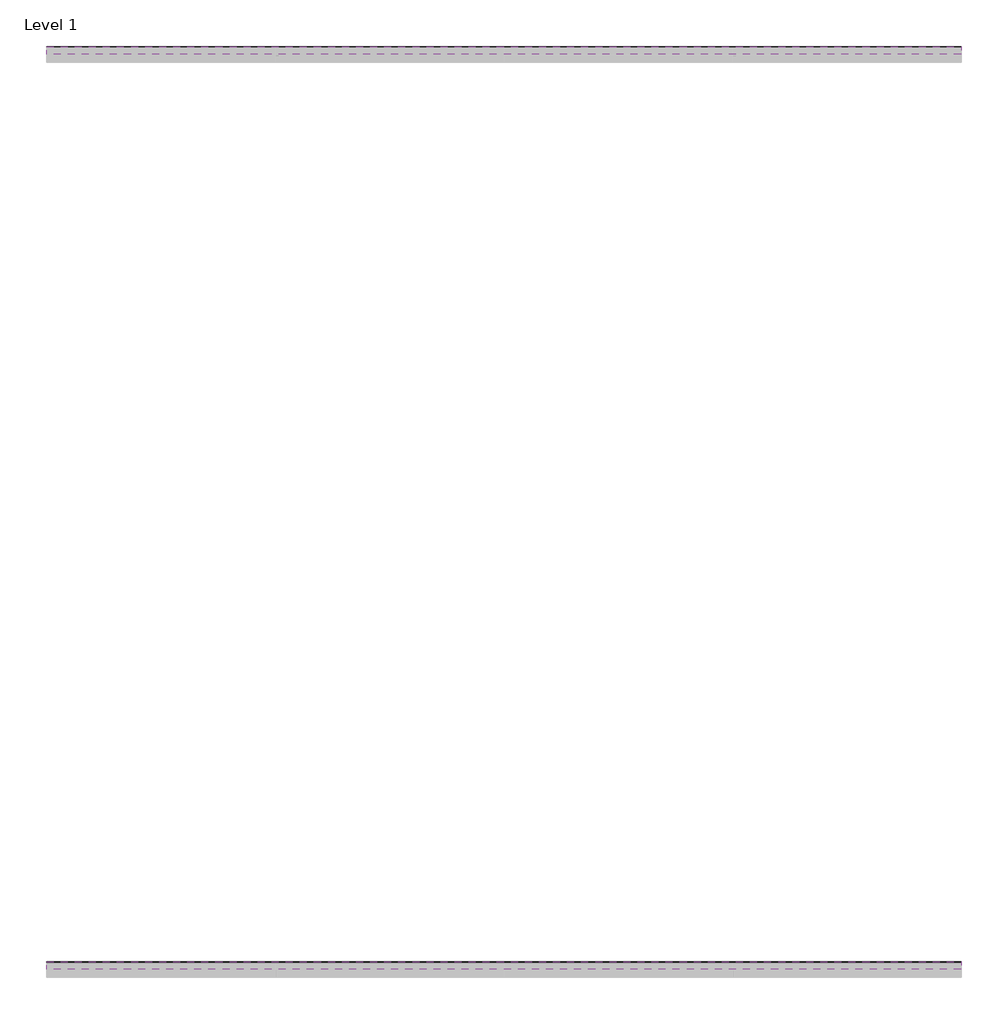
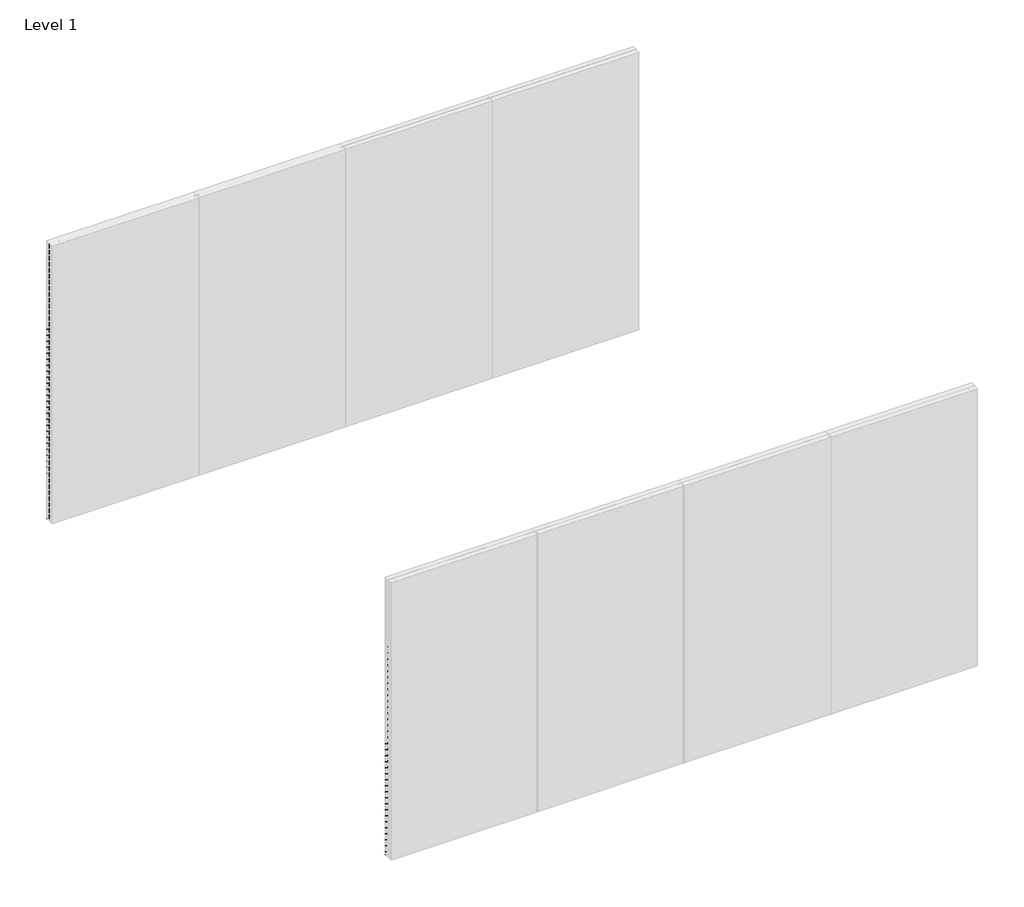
# One storey, part 2 of 2: 81 proxies.
"""IFC4 building model written with IfcOpenShell, lengths in millimetres."""

from ifc_helpers import new_model, si_unit, frame, origin, place, context, project, spatial, polyline, outline, extrude, element, save

model = new_model("IFC4")

# Units and contexts
model_context = context("Model", 3, world=origin())
ifc_project = project(units=[si_unit("LENGTHUNIT", "METRE", prefix="MILLI")], contexts=[model_context])

# Site, building, storey
site = spatial("IfcSite", under=ifc_project)
building = spatial("IfcBuilding", under=site)
storey = spatial("IfcBuildingStorey", under=building, Name="Level 1", Elevation=0.0)

# Proxies
placement = place(None, origin())
element("IfcBuildingElementProxy", 1, Name="Wall Sweeps", at=placement, inside=storey, context=model_context, shape_type="SweptSolid", body=[
    extrude(outline(polyline([(-1995.0, 2990.0), (-1995.0, 2981.2901632), (-1946.0, 2953.0), (-1946.0, 2918.0), (-1997.0, 2947.4448637), (-1997.0, 2990.0), (-1995.0, 2990.0)])), frame((0.0, 0.0, 0.0), z_axis=(1.0, 0.0, 0.0), x_axis=(0.0, 1.0, 0.0)), (0.0, 0.0, 1.0), 6000.0),
])
element("IfcBuildingElementProxy", 2, Name="Wall Sweeps", at=placement, inside=storey, context=model_context, shape_type="SweptSolid", body=[
    extrude(outline(polyline([(-1995.0, 2925.0), (-1995.0, 2916.2901632), (-1946.0, 2888.0), (-1946.0, 2853.0), (-1997.0, 2882.4448637), (-1997.0, 2925.0), (-1995.0, 2925.0)])), frame((0.0, 0.0, 0.0), z_axis=(1.0, 0.0, 0.0), x_axis=(0.0, 1.0, 0.0)), (0.0, 0.0, 1.0), 6000.0),
])
element("IfcBuildingElementProxy", 3, Name="Wall Sweeps", at=placement, inside=storey, context=model_context, shape_type="SweptSolid", body=[
    extrude(outline(polyline([(-1995.0, 2860.0), (-1995.0, 2851.2901632), (-1946.0, 2823.0), (-1946.0, 2788.0), (-1997.0, 2817.4448637), (-1997.0, 2860.0), (-1995.0, 2860.0)])), frame((0.0, 0.0, 0.0), z_axis=(1.0, 0.0, 0.0), x_axis=(0.0, 1.0, 0.0)), (0.0, 0.0, 1.0), 6000.0),
])
element("IfcBuildingElementProxy", 4, Name="Wall Sweeps", at=placement, inside=storey, context=model_context, shape_type="SweptSolid", body=[
    extrude(outline(polyline([(-1995.0, 2795.0), (-1995.0, 2786.2901632), (-1946.0, 2758.0), (-1946.0, 2723.0), (-1997.0, 2752.4448637), (-1997.0, 2795.0), (-1995.0, 2795.0)])), frame((0.0, 0.0, 0.0), z_axis=(1.0, 0.0, 0.0), x_axis=(0.0, 1.0, 0.0)), (0.0, 0.0, 1.0), 6000.0),
])
element("IfcBuildingElementProxy", 5, Name="Wall Sweeps", at=placement, inside=storey, context=model_context, shape_type="SweptSolid", body=[
    extrude(outline(polyline([(-1995.0, 2730.0), (-1995.0, 2721.2901632), (-1946.0, 2693.0), (-1946.0, 2658.0), (-1997.0, 2687.4448637), (-1997.0, 2730.0), (-1995.0, 2730.0)])), frame((0.0, 0.0, 0.0), z_axis=(1.0, 0.0, 0.0), x_axis=(0.0, 1.0, 0.0)), (0.0, 0.0, 1.0), 6000.0),
])
element("IfcBuildingElementProxy", 6, Name="Wall Sweeps", at=placement, inside=storey, context=model_context, shape_type="SweptSolid", body=[
    extrude(outline(polyline([(-1995.0, 2665.0), (-1995.0, 2656.2901632), (-1946.0, 2628.0), (-1946.0, 2593.0), (-1997.0, 2622.4448637), (-1997.0, 2665.0), (-1995.0, 2665.0)])), frame((0.0, 0.0, 0.0), z_axis=(1.0, 0.0, 0.0), x_axis=(0.0, 1.0, 0.0)), (0.0, 0.0, 1.0), 6000.0),
])
element("IfcBuildingElementProxy", 7, Name="Wall Sweeps", at=placement, inside=storey, context=model_context, shape_type="SweptSolid", body=[
    extrude(outline(polyline([(-1995.0, 2600.0), (-1995.0, 2591.2901632), (-1946.0, 2563.0), (-1946.0, 2528.0), (-1997.0, 2557.4448637), (-1997.0, 2600.0), (-1995.0, 2600.0)])), frame((0.0, 0.0, 0.0), z_axis=(1.0, 0.0, 0.0), x_axis=(0.0, 1.0, 0.0)), (0.0, 0.0, 1.0), 6000.0),
])
element("IfcBuildingElementProxy", 8, Name="Wall Sweeps", at=placement, inside=storey, context=model_context, shape_type="SweptSolid", body=[
    extrude(outline(polyline([(-1995.0, 2535.0), (-1995.0, 2526.2901632), (-1946.0, 2498.0), (-1946.0, 2463.0), (-1997.0, 2492.4448637), (-1997.0, 2535.0), (-1995.0, 2535.0)])), frame((0.0, 0.0, 0.0), z_axis=(1.0, 0.0, 0.0), x_axis=(0.0, 1.0, 0.0)), (0.0, 0.0, 1.0), 6000.0),
])
element("IfcBuildingElementProxy", 9, Name="Wall Sweeps", at=placement, inside=storey, context=model_context, shape_type="SweptSolid", body=[
    extrude(outline(polyline([(-1995.0, 2470.0), (-1995.0, 2461.2901632), (-1946.0, 2433.0), (-1946.0, 2398.0), (-1997.0, 2427.4448637), (-1997.0, 2470.0), (-1995.0, 2470.0)])), frame((0.0, 0.0, 0.0), z_axis=(1.0, 0.0, 0.0), x_axis=(0.0, 1.0, 0.0)), (0.0, 0.0, 1.0), 6000.0),
])
element("IfcBuildingElementProxy", 10, Name="Wall Sweeps", at=placement, inside=storey, context=model_context, shape_type="SweptSolid", body=[
    extrude(outline(polyline([(-1995.0, 2405.0), (-1995.0, 2396.2901632), (-1946.0, 2368.0), (-1946.0, 2333.0), (-1997.0, 2362.4448637), (-1997.0, 2405.0), (-1995.0, 2405.0)])), frame((0.0, 0.0, 0.0), z_axis=(1.0, 0.0, 0.0), x_axis=(0.0, 1.0, 0.0)), (0.0, 0.0, 1.0), 6000.0),
])
element("IfcBuildingElementProxy", 11, Name="Wall Sweeps", at=placement, inside=storey, context=model_context, shape_type="SweptSolid", body=[
    extrude(outline(polyline([(-1995.0, 2340.0), (-1995.0, 2331.2901632), (-1946.0, 2303.0), (-1946.0, 2268.0), (-1997.0, 2297.4448637), (-1997.0, 2340.0), (-1995.0, 2340.0)])), frame((0.0, 0.0, 0.0), z_axis=(1.0, 0.0, 0.0), x_axis=(0.0, 1.0, 0.0)), (0.0, 0.0, 1.0), 6000.0),
])
element("IfcBuildingElementProxy", 12, Name="Wall Sweeps", at=placement, inside=storey, context=model_context, shape_type="SweptSolid", body=[
    extrude(outline(polyline([(-1995.0, 2275.0), (-1995.0, 2266.2901632), (-1946.0, 2238.0), (-1946.0, 2203.0), (-1997.0, 2232.4448637), (-1997.0, 2275.0), (-1995.0, 2275.0)])), frame((0.0, 0.0, 0.0), z_axis=(1.0, 0.0, 0.0), x_axis=(0.0, 1.0, 0.0)), (0.0, 0.0, 1.0), 6000.0),
])
element("IfcBuildingElementProxy", 13, Name="Wall Sweeps", at=placement, inside=storey, context=model_context, shape_type="SweptSolid", body=[
    extrude(outline(polyline([(-1995.0, 2210.0), (-1995.0, 2201.2901632), (-1946.0, 2173.0), (-1946.0, 2138.0), (-1997.0, 2167.4448637), (-1997.0, 2210.0), (-1995.0, 2210.0)])), frame((0.0, 0.0, 0.0), z_axis=(1.0, 0.0, 0.0), x_axis=(0.0, 1.0, 0.0)), (0.0, 0.0, 1.0), 6000.0),
])
element("IfcBuildingElementProxy", 14, Name="Wall Sweeps", at=placement, inside=storey, context=model_context, shape_type="SweptSolid", body=[
    extrude(outline(polyline([(-1995.0, 2145.0), (-1995.0, 2136.2901632), (-1946.0, 2108.0), (-1946.0, 2073.0), (-1997.0, 2102.4448637), (-1997.0, 2145.0), (-1995.0, 2145.0)])), frame((0.0, 0.0, 0.0), z_axis=(1.0, 0.0, 0.0), x_axis=(0.0, 1.0, 0.0)), (0.0, 0.0, 1.0), 6000.0),
])
element("IfcBuildingElementProxy", 15, Name="Wall Sweeps", at=placement, inside=storey, context=model_context, shape_type="SweptSolid", body=[
    extrude(outline(polyline([(-1995.0, 2080.0), (-1995.0, 2071.2901632), (-1946.0, 2043.0), (-1946.0, 2008.0), (-1997.0, 2037.4448637), (-1997.0, 2080.0), (-1995.0, 2080.0)])), frame((0.0, 0.0, 0.0), z_axis=(1.0, 0.0, 0.0), x_axis=(0.0, 1.0, 0.0)), (0.0, 0.0, 1.0), 6000.0),
])
element("IfcBuildingElementProxy", 16, Name="Wall Sweeps", at=placement, inside=storey, context=model_context, shape_type="SweptSolid", body=[
    extrude(outline(polyline([(-1995.0, 2015.0), (-1995.0, 2006.2901632), (-1946.0, 1978.0), (-1946.0, 1943.0), (-1997.0, 1972.4448637), (-1997.0, 2015.0), (-1995.0, 2015.0)])), frame((0.0, 0.0, 0.0), z_axis=(1.0, 0.0, 0.0), x_axis=(0.0, 1.0, 0.0)), (0.0, 0.0, 1.0), 6000.0),
])
element("IfcBuildingElementProxy", 17, Name="Wall Sweeps", at=placement, inside=storey, context=model_context, shape_type="SweptSolid", body=[
    extrude(outline(polyline([(-1995.0, 1950.0), (-1995.0, 1941.2901632), (-1946.0, 1913.0), (-1946.0, 1878.0), (-1997.0, 1907.4448637), (-1997.0, 1950.0), (-1995.0, 1950.0)])), frame((0.0, 0.0, 0.0), z_axis=(1.0, 0.0, 0.0), x_axis=(0.0, 1.0, 0.0)), (0.0, 0.0, 1.0), 6000.0),
])
element("IfcBuildingElementProxy", 18, Name="Wall Sweeps", at=placement, inside=storey, context=model_context, shape_type="SweptSolid", body=[
    extrude(outline(polyline([(-1995.0, 1885.0), (-1995.0, 1876.2901632), (-1946.0, 1848.0), (-1946.0, 1813.0), (-1997.0, 1842.4448637), (-1997.0, 1885.0), (-1995.0, 1885.0)])), frame((0.0, 0.0, 0.0), z_axis=(1.0, 0.0, 0.0), x_axis=(0.0, 1.0, 0.0)), (0.0, 0.0, 1.0), 6000.0),
])
element("IfcBuildingElementProxy", 19, Name="Wall Sweeps", at=placement, inside=storey, context=model_context, shape_type="SweptSolid", body=[
    extrude(outline(polyline([(-1995.0, 1820.0), (-1995.0, 1811.2901632), (-1946.0, 1783.0), (-1946.0, 1748.0), (-1997.0, 1777.4448637), (-1997.0, 1820.0), (-1995.0, 1820.0)])), frame((0.0, 0.0, 0.0), z_axis=(1.0, 0.0, 0.0), x_axis=(0.0, 1.0, 0.0)), (0.0, 0.0, 1.0), 6000.0),
])
element("IfcBuildingElementProxy", 20, Name="Wall Sweeps", at=placement, inside=storey, context=model_context, shape_type="SweptSolid", body=[
    extrude(outline(polyline([(-1995.0, 1755.0), (-1995.0, 1746.2901632), (-1946.0, 1718.0), (-1946.0, 1683.0), (-1997.0, 1712.4448637), (-1997.0, 1755.0), (-1995.0, 1755.0)])), frame((0.0, 0.0, 0.0), z_axis=(1.0, 0.0, 0.0), x_axis=(0.0, 1.0, 0.0)), (0.0, 0.0, 1.0), 6000.0),
])
element("IfcBuildingElementProxy", 21, Name="Wall Sweeps", at=placement, inside=storey, context=model_context, shape_type="SweptSolid", body=[
    extrude(outline(polyline([(-1995.0, 1690.0), (-1995.0, 1681.2901632), (-1946.0, 1653.0), (-1946.0, 1618.0), (-1997.0, 1647.4448637), (-1997.0, 1690.0), (-1995.0, 1690.0)])), frame((0.0, 0.0, 0.0), z_axis=(1.0, 0.0, 0.0), x_axis=(0.0, 1.0, 0.0)), (0.0, 0.0, 1.0), 6000.0),
])
element("IfcBuildingElementProxy", 22, Name="Wall Sweeps", at=placement, inside=storey, context=model_context, shape_type="SweptSolid", body=[
    extrude(outline(polyline([(-1995.0, 1625.0), (-1995.0, 1616.2901632), (-1946.0, 1588.0), (-1946.0, 1553.0), (-1997.0, 1582.4448637), (-1997.0, 1625.0), (-1995.0, 1625.0)])), frame((0.0, 0.0, 0.0), z_axis=(1.0, 0.0, 0.0), x_axis=(0.0, 1.0, 0.0)), (0.0, 0.0, 1.0), 6000.0),
])
element("IfcBuildingElementProxy", 23, Name="Wall Sweeps", at=placement, inside=storey, context=model_context, shape_type="SweptSolid", body=[
    extrude(outline(polyline([(-1995.0, 1560.0), (-1995.0, 1551.2901632), (-1946.0, 1523.0), (-1946.0, 1488.0), (-1997.0, 1517.4448637), (-1997.0, 1560.0), (-1995.0, 1560.0)])), frame((0.0, 0.0, 0.0), z_axis=(1.0, 0.0, 0.0), x_axis=(0.0, 1.0, 0.0)), (0.0, 0.0, 1.0), 6000.0),
])
element("IfcBuildingElementProxy", 24, Name="Wall Sweeps", at=placement, inside=storey, context=model_context, shape_type="SweptSolid", body=[
    extrude(outline(polyline([(-1995.0, 1495.0), (-1995.0, 1486.2901632), (-1946.0, 1458.0), (-1946.0, 1423.0), (-1997.0, 1452.4448637), (-1997.0, 1495.0), (-1995.0, 1495.0)])), frame((0.0, 0.0, 0.0), z_axis=(1.0, 0.0, 0.0), x_axis=(0.0, 1.0, 0.0)), (0.0, 0.0, 1.0), 6000.0),
])
element("IfcBuildingElementProxy", 25, Name="Wall Sweeps", at=placement, inside=storey, context=model_context, shape_type="SweptSolid", body=[
    extrude(outline(polyline([(-1995.0, 1430.0), (-1995.0, 1421.2901632), (-1946.0, 1393.0), (-1946.0, 1358.0), (-1997.0, 1387.4448637), (-1997.0, 1430.0), (-1995.0, 1430.0)])), frame((0.0, 0.0, 0.0), z_axis=(1.0, 0.0, 0.0), x_axis=(0.0, 1.0, 0.0)), (0.0, 0.0, 1.0), 6000.0),
])
element("IfcBuildingElementProxy", 26, Name="Wall Sweeps", at=placement, inside=storey, context=model_context, shape_type="SweptSolid", body=[
    extrude(outline(polyline([(-1995.0, 1365.0), (-1995.0, 1356.2901632), (-1946.0, 1328.0), (-1946.0, 1293.0), (-1997.0, 1322.4448637), (-1997.0, 1365.0), (-1995.0, 1365.0)])), frame((0.0, 0.0, 0.0), z_axis=(1.0, 0.0, 0.0), x_axis=(0.0, 1.0, 0.0)), (0.0, 0.0, 1.0), 6000.0),
])
element("IfcBuildingElementProxy", 27, Name="Wall Sweeps", at=placement, inside=storey, context=model_context, shape_type="SweptSolid", body=[
    extrude(outline(polyline([(-1995.0, 1300.0), (-1995.0, 1291.2901632), (-1946.0, 1263.0), (-1946.0, 1228.0), (-1997.0, 1257.4448637), (-1997.0, 1300.0), (-1995.0, 1300.0)])), frame((0.0, 0.0, 0.0), z_axis=(1.0, 0.0, 0.0), x_axis=(0.0, 1.0, 0.0)), (0.0, 0.0, 1.0), 6000.0),
])
element("IfcBuildingElementProxy", 28, Name="Wall Sweeps", at=placement, inside=storey, context=model_context, shape_type="SweptSolid", body=[
    extrude(outline(polyline([(-1995.0, 1235.0), (-1995.0, 1226.2901632), (-1946.0, 1198.0), (-1946.0, 1163.0), (-1997.0, 1192.4448637), (-1997.0, 1235.0), (-1995.0, 1235.0)])), frame((0.0, 0.0, 0.0), z_axis=(1.0, 0.0, 0.0), x_axis=(0.0, 1.0, 0.0)), (0.0, 0.0, 1.0), 6000.0),
])
element("IfcBuildingElementProxy", 29, Name="Wall Sweeps", at=placement, inside=storey, context=model_context, shape_type="SweptSolid", body=[
    extrude(outline(polyline([(-1995.0, 1170.0), (-1995.0, 1161.2901632), (-1946.0, 1133.0), (-1946.0, 1098.0), (-1997.0, 1127.4448637), (-1997.0, 1170.0), (-1995.0, 1170.0)])), frame((0.0, 0.0, 0.0), z_axis=(1.0, 0.0, 0.0), x_axis=(0.0, 1.0, 0.0)), (0.0, 0.0, 1.0), 6000.0),
])
element("IfcBuildingElementProxy", 30, Name="Wall Sweeps", at=placement, inside=storey, context=model_context, shape_type="SweptSolid", body=[
    extrude(outline(polyline([(-1995.0, 1105.0), (-1995.0, 1096.2901632), (-1946.0, 1068.0), (-1946.0, 1033.0), (-1997.0, 1062.4448637), (-1997.0, 1105.0), (-1995.0, 1105.0)])), frame((0.0, 0.0, 0.0), z_axis=(1.0, 0.0, 0.0), x_axis=(0.0, 1.0, 0.0)), (0.0, 0.0, 1.0), 6000.0),
])
element("IfcBuildingElementProxy", 31, Name="Wall Sweeps", at=placement, inside=storey, context=model_context, shape_type="SweptSolid", body=[
    extrude(outline(polyline([(-1995.0, 1040.0), (-1995.0, 1031.2901632), (-1946.0, 1003.0), (-1946.0, 968.0), (-1997.0, 997.4448637), (-1997.0, 1040.0), (-1995.0, 1040.0)])), frame((0.0, 0.0, 0.0), z_axis=(1.0, 0.0, 0.0), x_axis=(0.0, 1.0, 0.0)), (0.0, 0.0, 1.0), 6000.0),
])
element("IfcBuildingElementProxy", 32, Name="Wall Sweeps", at=placement, inside=storey, context=model_context, shape_type="SweptSolid", body=[
    extrude(outline(polyline([(-1995.0, 975.0), (-1995.0, 966.2901632), (-1946.0, 938.0), (-1946.0, 903.0), (-1997.0, 932.4448637), (-1997.0, 975.0), (-1995.0, 975.0)])), frame((0.0, 0.0, 0.0), z_axis=(1.0, 0.0, 0.0), x_axis=(0.0, 1.0, 0.0)), (0.0, 0.0, 1.0), 6000.0),
])
element("IfcBuildingElementProxy", 33, Name="Wall Sweeps", at=placement, inside=storey, context=model_context, shape_type="SweptSolid", body=[
    extrude(outline(polyline([(-1995.0, 910.0), (-1995.0, 901.2901632), (-1946.0, 873.0), (-1946.0, 838.0), (-1997.0, 867.4448637), (-1997.0, 910.0), (-1995.0, 910.0)])), frame((0.0, 0.0, 0.0), z_axis=(1.0, 0.0, 0.0), x_axis=(0.0, 1.0, 0.0)), (0.0, 0.0, 1.0), 6000.0),
])
element("IfcBuildingElementProxy", 34, Name="Wall Sweeps", at=placement, inside=storey, context=model_context, shape_type="SweptSolid", body=[
    extrude(outline(polyline([(-1995.0, 845.0), (-1995.0, 836.2901632), (-1946.0, 808.0), (-1946.0, 773.0), (-1997.0, 802.4448637), (-1997.0, 845.0), (-1995.0, 845.0)])), frame((0.0, 0.0, 0.0), z_axis=(1.0, 0.0, 0.0), x_axis=(0.0, 1.0, 0.0)), (0.0, 0.0, 1.0), 6000.0),
])
element("IfcBuildingElementProxy", 35, Name="Wall Sweeps", at=placement, inside=storey, context=model_context, shape_type="SweptSolid", body=[
    extrude(outline(polyline([(-1995.0, 780.0), (-1995.0, 771.2901632), (-1946.0, 743.0), (-1946.0, 708.0), (-1997.0, 737.4448637), (-1997.0, 780.0), (-1995.0, 780.0)])), frame((0.0, 0.0, 0.0), z_axis=(1.0, 0.0, 0.0), x_axis=(0.0, 1.0, 0.0)), (0.0, 0.0, 1.0), 6000.0),
])
element("IfcBuildingElementProxy", 36, Name="Wall Sweeps", at=placement, inside=storey, context=model_context, shape_type="SweptSolid", body=[
    extrude(outline(polyline([(-1995.0, 715.0), (-1995.0, 706.2901632), (-1946.0, 678.0), (-1946.0, 643.0), (-1997.0, 672.4448637), (-1997.0, 715.0), (-1995.0, 715.0)])), frame((0.0, 0.0, 0.0), z_axis=(1.0, 0.0, 0.0), x_axis=(0.0, 1.0, 0.0)), (0.0, 0.0, 1.0), 6000.0),
])
element("IfcBuildingElementProxy", 37, Name="Wall Sweeps", at=placement, inside=storey, context=model_context, shape_type="SweptSolid", body=[
    extrude(outline(polyline([(-1995.0, 650.0), (-1995.0, 641.2901632), (-1946.0, 613.0), (-1946.0, 578.0), (-1997.0, 607.4448637), (-1997.0, 650.0), (-1995.0, 650.0)])), frame((0.0, 0.0, 0.0), z_axis=(1.0, 0.0, 0.0), x_axis=(0.0, 1.0, 0.0)), (0.0, 0.0, 1.0), 6000.0),
])
element("IfcBuildingElementProxy", 38, Name="Wall Sweeps", at=placement, inside=storey, context=model_context, shape_type="SweptSolid", body=[
    extrude(outline(polyline([(-1995.0, 585.0), (-1995.0, 576.2901632), (-1946.0, 548.0), (-1946.0, 513.0), (-1997.0, 542.4448637), (-1997.0, 585.0), (-1995.0, 585.0)])), frame((0.0, 0.0, 0.0), z_axis=(1.0, 0.0, 0.0), x_axis=(0.0, 1.0, 0.0)), (0.0, 0.0, 1.0), 6000.0),
])
element("IfcBuildingElementProxy", 39, Name="Wall Sweeps", at=placement, inside=storey, context=model_context, shape_type="SweptSolid", body=[
    extrude(outline(polyline([(-1995.0, 520.0), (-1995.0, 511.2901632), (-1946.0, 483.0), (-1946.0, 448.0), (-1997.0, 477.4448637), (-1997.0, 520.0), (-1995.0, 520.0)])), frame((0.0, 0.0, 0.0), z_axis=(1.0, 0.0, 0.0), x_axis=(0.0, 1.0, 0.0)), (0.0, 0.0, 1.0), 6000.0),
])
element("IfcBuildingElementProxy", 40, Name="Wall Sweeps", at=placement, inside=storey, context=model_context, shape_type="SweptSolid", body=[
    extrude(outline(polyline([(-1995.0, 455.0), (-1995.0, 446.2901632), (-1946.0, 418.0), (-1946.0, 383.0), (-1997.0, 412.4448637), (-1997.0, 455.0), (-1995.0, 455.0)])), frame((0.0, 0.0, 0.0), z_axis=(1.0, 0.0, 0.0), x_axis=(0.0, 1.0, 0.0)), (0.0, 0.0, 1.0), 6000.0),
])
element("IfcBuildingElementProxy", 41, Name="Wall Sweeps", at=placement, inside=storey, context=model_context, shape_type="SweptSolid", body=[
    extrude(outline(polyline([(-1995.0, 390.0), (-1995.0, 381.2901632), (-1946.0, 353.0), (-1946.0, 318.0), (-1997.0, 347.4448637), (-1997.0, 390.0), (-1995.0, 390.0)])), frame((0.0, 0.0, 0.0), z_axis=(1.0, 0.0, 0.0), x_axis=(0.0, 1.0, 0.0)), (0.0, 0.0, 1.0), 6000.0),
])
element("IfcBuildingElementProxy", 42, Name="Wall Sweeps", at=placement, inside=storey, context=model_context, shape_type="SweptSolid", body=[
    extrude(outline(polyline([(-1995.0, 325.0), (-1995.0, 316.2901632), (-1946.0, 288.0), (-1946.0, 253.0), (-1997.0, 282.4448637), (-1997.0, 325.0), (-1995.0, 325.0)])), frame((0.0, 0.0, 0.0), z_axis=(1.0, 0.0, 0.0), x_axis=(0.0, 1.0, 0.0)), (0.0, 0.0, 1.0), 6000.0),
])
element("IfcBuildingElementProxy", 43, Name="Wall Sweeps", at=placement, inside=storey, context=model_context, shape_type="SweptSolid", body=[
    extrude(outline(polyline([(-1995.0, 260.0), (-1995.0, 251.2901632), (-1946.0, 223.0), (-1946.0, 188.0), (-1997.0, 217.4448637), (-1997.0, 260.0), (-1995.0, 260.0)])), frame((0.0, 0.0, 0.0), z_axis=(1.0, 0.0, 0.0), x_axis=(0.0, 1.0, 0.0)), (0.0, 0.0, 1.0), 6000.0),
])
element("IfcBuildingElementProxy", 44, Name="Wall Sweeps", at=placement, inside=storey, context=model_context, shape_type="SweptSolid", body=[
    extrude(outline(polyline([(-1995.0, 195.0), (-1995.0, 186.2901632), (-1946.0, 158.0), (-1946.0, 123.0), (-1997.0, 152.4448637), (-1997.0, 195.0), (-1995.0, 195.0)])), frame((0.0, 0.0, 0.0), z_axis=(1.0, 0.0, 0.0), x_axis=(0.0, 1.0, 0.0)), (0.0, 0.0, 1.0), 6000.0),
])
element("IfcBuildingElementProxy", 45, Name="Wall Sweeps", at=placement, inside=storey, context=model_context, shape_type="SweptSolid", body=[
    extrude(outline(polyline([(-1995.0, 130.0), (-1995.0, 121.2901632), (-1946.0, 93.0), (-1946.0, 58.0), (-1997.0, 87.4448637), (-1997.0, 130.0), (-1995.0, 130.0)])), frame((0.0, 0.0, 0.0), z_axis=(1.0, 0.0, 0.0), x_axis=(0.0, 1.0, 0.0)), (0.0, 0.0, 1.0), 6000.0),
])
element("IfcBuildingElementProxy", 46, Name="Wall Sweeps", at=placement, inside=storey, context=model_context, shape_type="SweptSolid", body=[
    extrude(outline(polyline([(-1995.0, 65.0), (-1995.0, 56.2901632), (-1946.0, 28.0), (-1946.0, -7.0), (-1997.0, 22.4448637), (-1997.0, 65.0), (-1995.0, 65.0)])), frame((0.0, 0.0, 0.0), z_axis=(1.0, 0.0, 0.0), x_axis=(0.0, 1.0, 0.0)), (0.0, 0.0, 1.0), 6000.0),
])
element("IfcBuildingElementProxy", 47, Name="Wall Sweeps", at=placement, inside=storey, context=model_context, shape_type="SweptSolid", body=[
    extrude(outline(polyline([(-7995.0, 2275.0), (-7995.0, 2266.2901632), (-7946.0, 2238.0), (-7946.0, 2203.0), (-7997.0, 2232.4448637), (-7997.0, 2275.0), (-7995.0, 2275.0)])), frame((0.0, 0.0, 0.0), z_axis=(1.0, 0.0, 0.0), x_axis=(0.0, 1.0, 0.0)), (0.0, 0.0, 1.0), 6000.0),
])
element("IfcBuildingElementProxy", 48, Name="Wall Sweeps", at=placement, inside=storey, context=model_context, shape_type="SweptSolid", body=[
    extrude(outline(polyline([(-7995.0, 2210.0), (-7995.0, 2201.2901632), (-7946.0, 2173.0), (-7946.0, 2138.0), (-7997.0, 2167.4448637), (-7997.0, 2210.0), (-7995.0, 2210.0)])), frame((0.0, 0.0, 0.0), z_axis=(1.0, 0.0, 0.0), x_axis=(0.0, 1.0, 0.0)), (0.0, 0.0, 1.0), 6000.0),
])
element("IfcBuildingElementProxy", 49, Name="Wall Sweeps", at=placement, inside=storey, context=model_context, shape_type="SweptSolid", body=[
    extrude(outline(polyline([(-7995.0, 2145.0), (-7995.0, 2136.2901632), (-7946.0, 2108.0), (-7946.0, 2073.0), (-7997.0, 2102.4448637), (-7997.0, 2145.0), (-7995.0, 2145.0)])), frame((0.0, 0.0, 0.0), z_axis=(1.0, 0.0, 0.0), x_axis=(0.0, 1.0, 0.0)), (0.0, 0.0, 1.0), 6000.0),
])
element("IfcBuildingElementProxy", 50, Name="Wall Sweeps", at=placement, inside=storey, context=model_context, shape_type="SweptSolid", body=[
    extrude(outline(polyline([(-7995.0, 2080.0), (-7995.0, 2071.2901632), (-7946.0, 2043.0), (-7946.0, 2008.0), (-7997.0, 2037.4448637), (-7997.0, 2080.0), (-7995.0, 2080.0)])), frame((0.0, 0.0, 0.0), z_axis=(1.0, 0.0, 0.0), x_axis=(0.0, 1.0, 0.0)), (0.0, 0.0, 1.0), 6000.0),
])
element("IfcBuildingElementProxy", 51, Name="Wall Sweeps", at=placement, inside=storey, context=model_context, shape_type="SweptSolid", body=[
    extrude(outline(polyline([(-7995.0, 2015.0), (-7995.0, 2006.2901632), (-7946.0, 1978.0), (-7946.0, 1943.0), (-7997.0, 1972.4448637), (-7997.0, 2015.0), (-7995.0, 2015.0)])), frame((0.0, 0.0, 0.0), z_axis=(1.0, 0.0, 0.0), x_axis=(0.0, 1.0, 0.0)), (0.0, 0.0, 1.0), 6000.0),
])
element("IfcBuildingElementProxy", 52, Name="Wall Sweeps", at=placement, inside=storey, context=model_context, shape_type="SweptSolid", body=[
    extrude(outline(polyline([(-7995.0, 1950.0), (-7995.0, 1941.2901632), (-7946.0, 1913.0), (-7946.0, 1878.0), (-7997.0, 1907.4448637), (-7997.0, 1950.0), (-7995.0, 1950.0)])), frame((0.0, 0.0, 0.0), z_axis=(1.0, 0.0, 0.0), x_axis=(0.0, 1.0, 0.0)), (0.0, 0.0, 1.0), 6000.0),
])
element("IfcBuildingElementProxy", 53, Name="Wall Sweeps", at=placement, inside=storey, context=model_context, shape_type="SweptSolid", body=[
    extrude(outline(polyline([(-7995.0, 1885.0), (-7995.0, 1876.2901632), (-7946.0, 1848.0), (-7946.0, 1813.0), (-7997.0, 1842.4448637), (-7997.0, 1885.0), (-7995.0, 1885.0)])), frame((0.0, 0.0, 0.0), z_axis=(1.0, 0.0, 0.0), x_axis=(0.0, 1.0, 0.0)), (0.0, 0.0, 1.0), 6000.0),
])
element("IfcBuildingElementProxy", 54, Name="Wall Sweeps", at=placement, inside=storey, context=model_context, shape_type="SweptSolid", body=[
    extrude(outline(polyline([(-7995.0, 1820.0), (-7995.0, 1811.2901632), (-7946.0, 1783.0), (-7946.0, 1748.0), (-7997.0, 1777.4448637), (-7997.0, 1820.0), (-7995.0, 1820.0)])), frame((0.0, 0.0, 0.0), z_axis=(1.0, 0.0, 0.0), x_axis=(0.0, 1.0, 0.0)), (0.0, 0.0, 1.0), 6000.0),
])
element("IfcBuildingElementProxy", 55, Name="Wall Sweeps", at=placement, inside=storey, context=model_context, shape_type="SweptSolid", body=[
    extrude(outline(polyline([(-7995.0, 1755.0), (-7995.0, 1746.2901632), (-7946.0, 1718.0), (-7946.0, 1683.0), (-7997.0, 1712.4448637), (-7997.0, 1755.0), (-7995.0, 1755.0)])), frame((0.0, 0.0, 0.0), z_axis=(1.0, 0.0, 0.0), x_axis=(0.0, 1.0, 0.0)), (0.0, 0.0, 1.0), 6000.0),
])
element("IfcBuildingElementProxy", 56, Name="Wall Sweeps", at=placement, inside=storey, context=model_context, shape_type="SweptSolid", body=[
    extrude(outline(polyline([(-7995.0, 1690.0), (-7995.0, 1681.2901632), (-7946.0, 1653.0), (-7946.0, 1618.0), (-7997.0, 1647.4448637), (-7997.0, 1690.0), (-7995.0, 1690.0)])), frame((0.0, 0.0, 0.0), z_axis=(1.0, 0.0, 0.0), x_axis=(0.0, 1.0, 0.0)), (0.0, 0.0, 1.0), 6000.0),
])
element("IfcBuildingElementProxy", 57, Name="Wall Sweeps", at=placement, inside=storey, context=model_context, shape_type="SweptSolid", body=[
    extrude(outline(polyline([(-7995.0, 1625.0), (-7995.0, 1616.2901632), (-7946.0, 1588.0), (-7946.0, 1553.0), (-7997.0, 1582.4448637), (-7997.0, 1625.0), (-7995.0, 1625.0)])), frame((0.0, 0.0, 0.0), z_axis=(1.0, 0.0, 0.0), x_axis=(0.0, 1.0, 0.0)), (0.0, 0.0, 1.0), 6000.0),
])
element("IfcBuildingElementProxy", 58, Name="Wall Sweeps", at=placement, inside=storey, context=model_context, shape_type="SweptSolid", body=[
    extrude(outline(polyline([(-7995.0, 1560.0), (-7995.0, 1551.2901632), (-7946.0, 1523.0), (-7946.0, 1488.0), (-7997.0, 1517.4448637), (-7997.0, 1560.0), (-7995.0, 1560.0)])), frame((0.0, 0.0, 0.0), z_axis=(1.0, 0.0, 0.0), x_axis=(0.0, 1.0, 0.0)), (0.0, 0.0, 1.0), 6000.0),
])
element("IfcBuildingElementProxy", 59, Name="Wall Sweeps", at=placement, inside=storey, context=model_context, shape_type="SweptSolid", body=[
    extrude(outline(polyline([(-7995.0, 1495.0), (-7995.0, 1486.2901632), (-7946.0, 1458.0), (-7946.0, 1423.0), (-7997.0, 1452.4448637), (-7997.0, 1495.0), (-7995.0, 1495.0)])), frame((0.0, 0.0, 0.0), z_axis=(1.0, 0.0, 0.0), x_axis=(0.0, 1.0, 0.0)), (0.0, 0.0, 1.0), 6000.0),
])
element("IfcBuildingElementProxy", 60, Name="Wall Sweeps", at=placement, inside=storey, context=model_context, shape_type="SweptSolid", body=[
    extrude(outline(polyline([(-7995.0, 1430.0), (-7995.0, 1421.2901632), (-7946.0, 1393.0), (-7946.0, 1358.0), (-7997.0, 1387.4448637), (-7997.0, 1430.0), (-7995.0, 1430.0)])), frame((0.0, 0.0, 0.0), z_axis=(1.0, 0.0, 0.0), x_axis=(0.0, 1.0, 0.0)), (0.0, 0.0, 1.0), 6000.0),
])
element("IfcBuildingElementProxy", 61, Name="Wall Sweeps", at=placement, inside=storey, context=model_context, shape_type="SweptSolid", body=[
    extrude(outline(polyline([(-7995.0, 1365.0), (-7995.0, 1356.2901632), (-7946.0, 1328.0), (-7946.0, 1293.0), (-7997.0, 1322.4448637), (-7997.0, 1365.0), (-7995.0, 1365.0)])), frame((0.0, 0.0, 0.0), z_axis=(1.0, 0.0, 0.0), x_axis=(0.0, 1.0, 0.0)), (0.0, 0.0, 1.0), 6000.0),
])
element("IfcBuildingElementProxy", 62, Name="Wall Sweeps", at=placement, inside=storey, context=model_context, shape_type="SweptSolid", body=[
    extrude(outline(polyline([(-7995.0, 1300.0), (-7995.0, 1291.2901632), (-7946.0, 1263.0), (-7946.0, 1228.0), (-7997.0, 1257.4448637), (-7997.0, 1300.0), (-7995.0, 1300.0)])), frame((0.0, 0.0, 0.0), z_axis=(1.0, 0.0, 0.0), x_axis=(0.0, 1.0, 0.0)), (0.0, 0.0, 1.0), 6000.0),
])
element("IfcBuildingElementProxy", 63, Name="Wall Sweeps", at=placement, inside=storey, context=model_context, shape_type="SweptSolid", body=[
    extrude(outline(polyline([(-7995.0, 1235.0), (-7995.0, 1226.2901632), (-7946.0, 1198.0), (-7946.0, 1163.0), (-7997.0, 1192.4448637), (-7997.0, 1235.0), (-7995.0, 1235.0)])), frame((0.0, 0.0, 0.0), z_axis=(1.0, 0.0, 0.0), x_axis=(0.0, 1.0, 0.0)), (0.0, 0.0, 1.0), 6000.0),
])
element("IfcBuildingElementProxy", 64, Name="Wall Sweeps", at=placement, inside=storey, context=model_context, shape_type="SweptSolid", body=[
    extrude(outline(polyline([(-7995.0, 1170.0), (-7995.0, 1161.2901632), (-7946.0, 1133.0), (-7946.0, 1098.0), (-7997.0, 1127.4448637), (-7997.0, 1170.0), (-7995.0, 1170.0)])), frame((0.0, 0.0, 0.0), z_axis=(1.0, 0.0, 0.0), x_axis=(0.0, 1.0, 0.0)), (0.0, 0.0, 1.0), 6000.0),
])
element("IfcBuildingElementProxy", 65, Name="Wall Sweeps", at=placement, inside=storey, context=model_context, shape_type="SweptSolid", body=[
    extrude(outline(polyline([(-7995.0, 1105.0), (-7995.0, 1096.2901632), (-7946.0, 1068.0), (-7946.0, 1033.0), (-7997.0, 1062.4448637), (-7997.0, 1105.0), (-7995.0, 1105.0)])), frame((0.0, 0.0, 0.0), z_axis=(1.0, 0.0, 0.0), x_axis=(0.0, 1.0, 0.0)), (0.0, 0.0, 1.0), 6000.0),
])
element("IfcBuildingElementProxy", 66, Name="Wall Sweeps", at=placement, inside=storey, context=model_context, shape_type="SweptSolid", body=[
    extrude(outline(polyline([(-7995.0, 1040.0), (-7995.0, 1031.2901632), (-7946.0, 1003.0), (-7946.0, 968.0), (-7997.0, 997.4448637), (-7997.0, 1040.0), (-7995.0, 1040.0)])), frame((0.0, 0.0, 0.0), z_axis=(1.0, 0.0, 0.0), x_axis=(0.0, 1.0, 0.0)), (0.0, 0.0, 1.0), 6000.0),
])
element("IfcBuildingElementProxy", 67, Name="Wall Sweeps", at=placement, inside=storey, context=model_context, shape_type="SweptSolid", body=[
    extrude(outline(polyline([(-7995.0, 975.0), (-7995.0, 966.2901632), (-7946.0, 938.0), (-7946.0, 903.0), (-7997.0, 932.4448637), (-7997.0, 975.0), (-7995.0, 975.0)])), frame((0.0, 0.0, 0.0), z_axis=(1.0, 0.0, 0.0), x_axis=(0.0, 1.0, 0.0)), (0.0, 0.0, 1.0), 6000.0),
])
element("IfcBuildingElementProxy", 68, Name="Wall Sweeps", at=placement, inside=storey, context=model_context, shape_type="SweptSolid", body=[
    extrude(outline(polyline([(-7995.0, 910.0), (-7995.0, 901.2901632), (-7946.0, 873.0), (-7946.0, 838.0), (-7997.0, 867.4448637), (-7997.0, 910.0), (-7995.0, 910.0)])), frame((0.0, 0.0, 0.0), z_axis=(1.0, 0.0, 0.0), x_axis=(0.0, 1.0, 0.0)), (0.0, 0.0, 1.0), 6000.0),
])
element("IfcBuildingElementProxy", 69, Name="Wall Sweeps", at=placement, inside=storey, context=model_context, shape_type="SweptSolid", body=[
    extrude(outline(polyline([(-7995.0, 845.0), (-7995.0, 836.2901632), (-7946.0, 808.0), (-7946.0, 773.0), (-7997.0, 802.4448637), (-7997.0, 845.0), (-7995.0, 845.0)])), frame((0.0, 0.0, 0.0), z_axis=(1.0, 0.0, 0.0), x_axis=(0.0, 1.0, 0.0)), (0.0, 0.0, 1.0), 6000.0),
])
element("IfcBuildingElementProxy", 70, Name="Wall Sweeps", at=placement, inside=storey, context=model_context, shape_type="SweptSolid", body=[
    extrude(outline(polyline([(-7995.0, 780.0), (-7995.0, 771.2901632), (-7946.0, 743.0), (-7946.0, 708.0), (-7997.0, 737.4448637), (-7997.0, 780.0), (-7995.0, 780.0)])), frame((0.0, 0.0, 0.0), z_axis=(1.0, 0.0, 0.0), x_axis=(0.0, 1.0, 0.0)), (0.0, 0.0, 1.0), 6000.0),
])
element("IfcBuildingElementProxy", 71, Name="Wall Sweeps", at=placement, inside=storey, context=model_context, shape_type="SweptSolid", body=[
    extrude(outline(polyline([(-7995.0, 715.0), (-7995.0, 706.2901632), (-7946.0, 678.0), (-7946.0, 643.0), (-7997.0, 672.4448637), (-7997.0, 715.0), (-7995.0, 715.0)])), frame((0.0, 0.0, 0.0), z_axis=(1.0, 0.0, 0.0), x_axis=(0.0, 1.0, 0.0)), (0.0, 0.0, 1.0), 6000.0),
])
element("IfcBuildingElementProxy", 72, Name="Wall Sweeps", at=placement, inside=storey, context=model_context, shape_type="SweptSolid", body=[
    extrude(outline(polyline([(-7995.0, 650.0), (-7995.0, 641.2901632), (-7946.0, 613.0), (-7946.0, 578.0), (-7997.0, 607.4448637), (-7997.0, 650.0), (-7995.0, 650.0)])), frame((0.0, 0.0, 0.0), z_axis=(1.0, 0.0, 0.0), x_axis=(0.0, 1.0, 0.0)), (0.0, 0.0, 1.0), 6000.0),
])
element("IfcBuildingElementProxy", 73, Name="Wall Sweeps", at=placement, inside=storey, context=model_context, shape_type="SweptSolid", body=[
    extrude(outline(polyline([(-7995.0, 585.0), (-7995.0, 576.2901632), (-7946.0, 548.0), (-7946.0, 513.0), (-7997.0, 542.4448637), (-7997.0, 585.0), (-7995.0, 585.0)])), frame((0.0, 0.0, 0.0), z_axis=(1.0, 0.0, 0.0), x_axis=(0.0, 1.0, 0.0)), (0.0, 0.0, 1.0), 6000.0),
])
element("IfcBuildingElementProxy", 74, Name="Wall Sweeps", at=placement, inside=storey, context=model_context, shape_type="SweptSolid", body=[
    extrude(outline(polyline([(-7995.0, 520.0), (-7995.0, 511.2901632), (-7946.0, 483.0), (-7946.0, 448.0), (-7997.0, 477.4448637), (-7997.0, 520.0), (-7995.0, 520.0)])), frame((0.0, 0.0, 0.0), z_axis=(1.0, 0.0, 0.0), x_axis=(0.0, 1.0, 0.0)), (0.0, 0.0, 1.0), 6000.0),
])
element("IfcBuildingElementProxy", 75, Name="Wall Sweeps", at=placement, inside=storey, context=model_context, shape_type="SweptSolid", body=[
    extrude(outline(polyline([(-7995.0, 455.0), (-7995.0, 446.2901632), (-7946.0, 418.0), (-7946.0, 383.0), (-7997.0, 412.4448637), (-7997.0, 455.0), (-7995.0, 455.0)])), frame((0.0, 0.0, 0.0), z_axis=(1.0, 0.0, 0.0), x_axis=(0.0, 1.0, 0.0)), (0.0, 0.0, 1.0), 6000.0),
])
element("IfcBuildingElementProxy", 76, Name="Wall Sweeps", at=placement, inside=storey, context=model_context, shape_type="SweptSolid", body=[
    extrude(outline(polyline([(-7995.0, 390.0), (-7995.0, 381.2901632), (-7946.0, 353.0), (-7946.0, 318.0), (-7997.0, 347.4448637), (-7997.0, 390.0), (-7995.0, 390.0)])), frame((0.0, 0.0, 0.0), z_axis=(1.0, 0.0, 0.0), x_axis=(0.0, 1.0, 0.0)), (0.0, 0.0, 1.0), 6000.0),
])
element("IfcBuildingElementProxy", 77, Name="Wall Sweeps", at=placement, inside=storey, context=model_context, shape_type="SweptSolid", body=[
    extrude(outline(polyline([(-7995.0, 325.0), (-7995.0, 316.2901632), (-7946.0, 288.0), (-7946.0, 253.0), (-7997.0, 282.4448637), (-7997.0, 325.0), (-7995.0, 325.0)])), frame((0.0, 0.0, 0.0), z_axis=(1.0, 0.0, 0.0), x_axis=(0.0, 1.0, 0.0)), (0.0, 0.0, 1.0), 6000.0),
])
element("IfcBuildingElementProxy", 78, Name="Wall Sweeps", at=placement, inside=storey, context=model_context, shape_type="SweptSolid", body=[
    extrude(outline(polyline([(-7995.0, 260.0), (-7995.0, 251.2901632), (-7946.0, 223.0), (-7946.0, 188.0), (-7997.0, 217.4448637), (-7997.0, 260.0), (-7995.0, 260.0)])), frame((0.0, 0.0, 0.0), z_axis=(1.0, 0.0, 0.0), x_axis=(0.0, 1.0, 0.0)), (0.0, 0.0, 1.0), 6000.0),
])
element("IfcBuildingElementProxy", 79, Name="Wall Sweeps", at=placement, inside=storey, context=model_context, shape_type="SweptSolid", body=[
    extrude(outline(polyline([(-7995.0, 195.0), (-7995.0, 186.2901632), (-7946.0, 158.0), (-7946.0, 123.0), (-7997.0, 152.4448637), (-7997.0, 195.0), (-7995.0, 195.0)])), frame((0.0, 0.0, 0.0), z_axis=(1.0, 0.0, 0.0), x_axis=(0.0, 1.0, 0.0)), (0.0, 0.0, 1.0), 6000.0),
])
element("IfcBuildingElementProxy", 80, Name="Wall Sweeps", at=placement, inside=storey, context=model_context, shape_type="SweptSolid", body=[
    extrude(outline(polyline([(-7995.0, 130.0), (-7995.0, 121.2901632), (-7946.0, 93.0), (-7946.0, 58.0), (-7997.0, 87.4448637), (-7997.0, 130.0), (-7995.0, 130.0)])), frame((0.0, 0.0, 0.0), z_axis=(1.0, 0.0, 0.0), x_axis=(0.0, 1.0, 0.0)), (0.0, 0.0, 1.0), 6000.0),
])
element("IfcBuildingElementProxy", 81, Name="Wall Sweeps", at=placement, inside=storey, context=model_context, shape_type="SweptSolid", body=[
    extrude(outline(polyline([(-7995.0, 65.0), (-7995.0, 56.2901632), (-7946.0, 28.0), (-7946.0, -7.0), (-7997.0, 22.4448637), (-7997.0, 65.0), (-7995.0, 65.0)])), frame((0.0, 0.0, 0.0), z_axis=(1.0, 0.0, 0.0), x_axis=(0.0, 1.0, 0.0)), (0.0, 0.0, 1.0), 6000.0),
])

save(model, "model.ifc")
